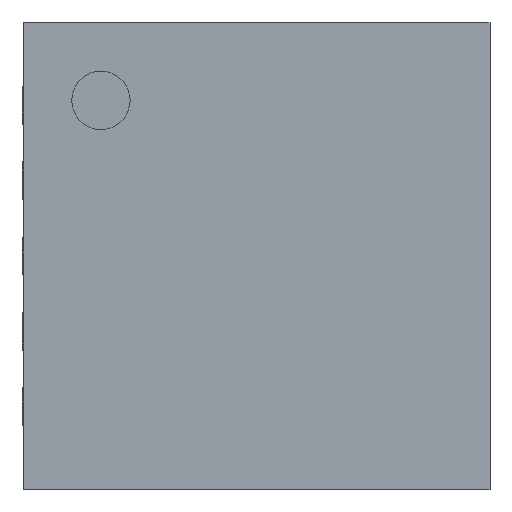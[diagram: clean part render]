
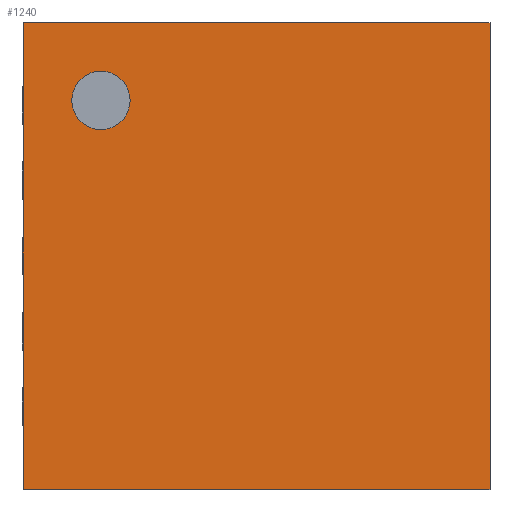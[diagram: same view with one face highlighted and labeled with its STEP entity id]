
A CAD part, top view. The second image highlights one B-rep face of the part: STEP entity #1240.
In plain terms, the highlighted planar face has unit normal (0, 0, 1).
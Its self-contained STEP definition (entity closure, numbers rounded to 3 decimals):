
#6 = VERTEX_POINT ( 'NONE', #579 ) ;
#68 = EDGE_LOOP ( 'NONE', ( #522, #607 ) ) ;
#110 = DIRECTION ( 'NONE',  ( 0., -1., 0. ) ) ;
#178 = CARTESIAN_POINT ( 'NONE',  ( 3.1, 0., 0.61 ) ) ;
#213 = DIRECTION ( 'NONE',  ( 1., 0., 0. ) ) ;
#214 = EDGE_CURVE ( 'NONE', #1368, #591, #1393, .T. ) ;
#219 = CARTESIAN_POINT ( 'NONE',  ( 0., 0., 0.61 ) ) ;
#224 = CARTESIAN_POINT ( 'NONE',  ( 3.1, 0., 0.61 ) ) ;
#236 = CARTESIAN_POINT ( 'NONE',  ( 0.517, 2.583, 0.61 ) ) ;
#239 = EDGE_CURVE ( 'NONE', #1368, #726, #588, .T. ) ;
#293 = AXIS2_PLACEMENT_3D ( 'NONE', #802, #565, #213 ) ;
#320 = VECTOR ( 'NONE', #110, 1000. ) ;
#368 = ORIENTED_EDGE ( 'NONE', *, *, #239, .F. ) ;
#375 = DIRECTION ( 'NONE',  ( 0., -1., 0. ) ) ;
#394 = AXIS2_PLACEMENT_3D ( 'NONE', #236, #479, #1043 ) ;
#417 = CARTESIAN_POINT ( 'NONE',  ( 0.323, 2.583, 0.61 ) ) ;
#428 = VECTOR ( 'NONE', #430, 1000. ) ;
#430 = DIRECTION ( 'NONE',  ( 1., 0., 0. ) ) ;
#472 = FACE_OUTER_BOUND ( 'NONE', #1122, .T. ) ;
#479 = DIRECTION ( 'NONE',  ( 0., 0., -1. ) ) ;
#480 = VECTOR ( 'NONE', #375, 1000. ) ;
#481 = DIRECTION ( 'NONE',  ( 1., 0., 0. ) ) ;
#522 = ORIENTED_EDGE ( 'NONE', *, *, #846, .T. ) ;
#541 = ORIENTED_EDGE ( 'NONE', *, *, #933, .F. ) ;
#565 = DIRECTION ( 'NONE',  ( 0., 0., 1. ) ) ;
#579 = CARTESIAN_POINT ( 'NONE',  ( 0.71, 2.583, 0.61 ) ) ;
#588 = LINE ( 'NONE', #1286, #1494 ) ;
#591 = VERTEX_POINT ( 'NONE', #978 ) ;
#607 = ORIENTED_EDGE ( 'NONE', *, *, #1134, .T. ) ;
#614 = EDGE_CURVE ( 'NONE', #591, #1284, #656, .T. ) ;
#636 = LINE ( 'NONE', #224, #480 ) ;
#652 = CARTESIAN_POINT ( 'NONE',  ( 0., 0., 0.61 ) ) ;
#656 = LINE ( 'NONE', #652, #428 ) ;
#726 = VERTEX_POINT ( 'NONE', #1491 ) ;
#802 = CARTESIAN_POINT ( 'NONE',  ( 0., 0., 0.61 ) ) ;
#836 = CIRCLE ( 'NONE', #394, 0.194 ) ;
#846 = EDGE_CURVE ( 'NONE', #6, #1205, #836, .T. ) ;
#863 = DIRECTION ( 'NONE',  ( 1., 0., 0. ) ) ;
#925 = PLANE ( 'NONE',  #293 ) ;
#933 = EDGE_CURVE ( 'NONE', #726, #1284, #636, .T. ) ;
#943 = AXIS2_PLACEMENT_3D ( 'NONE', #1079, #1204, #863 ) ;
#978 = CARTESIAN_POINT ( 'NONE',  ( 0., 0., 0.61 ) ) ;
#1043 = DIRECTION ( 'NONE',  ( 1., 0., 0. ) ) ;
#1079 = CARTESIAN_POINT ( 'NONE',  ( 0.517, 2.583, 0.61 ) ) ;
#1122 = EDGE_LOOP ( 'NONE', ( #541, #368, #1499, #1124 ) ) ;
#1124 = ORIENTED_EDGE ( 'NONE', *, *, #614, .T. ) ;
#1134 = EDGE_CURVE ( 'NONE', #1205, #6, #1427, .T. ) ;
#1204 = DIRECTION ( 'NONE',  ( 0., 0., -1. ) ) ;
#1205 = VERTEX_POINT ( 'NONE', #417 ) ;
#1240 = ADVANCED_FACE ( 'NONE', ( #1451, #472 ), #925, .T. ) ;
#1284 = VERTEX_POINT ( 'NONE', #178 ) ;
#1286 = CARTESIAN_POINT ( 'NONE',  ( 0., 3.1, 0.61 ) ) ;
#1368 = VERTEX_POINT ( 'NONE', #1490 ) ;
#1393 = LINE ( 'NONE', #219, #320 ) ;
#1427 = CIRCLE ( 'NONE', #943, 0.194 ) ;
#1451 = FACE_BOUND ( 'NONE', #68, .T. ) ;
#1490 = CARTESIAN_POINT ( 'NONE',  ( 0., 3.1, 0.61 ) ) ;
#1491 = CARTESIAN_POINT ( 'NONE',  ( 3.1, 3.1, 0.61 ) ) ;
#1494 = VECTOR ( 'NONE', #481, 1000. ) ;
#1499 = ORIENTED_EDGE ( 'NONE', *, *, #214, .T. ) ;
